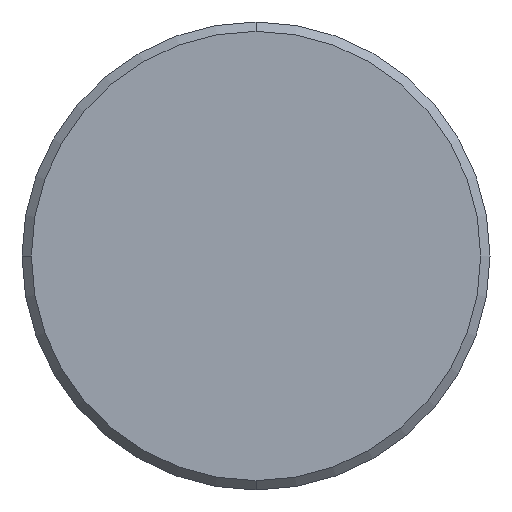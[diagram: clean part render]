
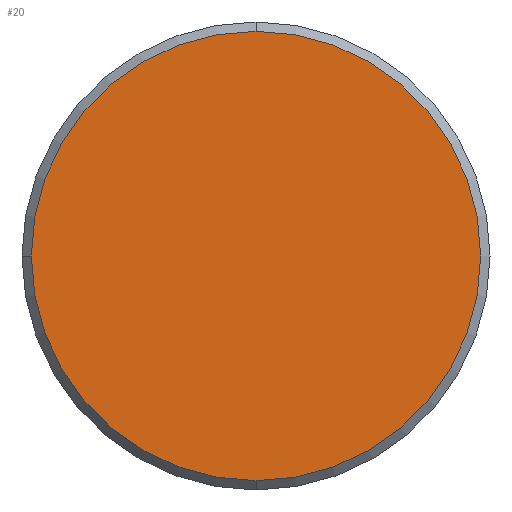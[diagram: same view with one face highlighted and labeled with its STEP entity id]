
A CAD part, left-side view. The second image highlights one B-rep face of the part: STEP entity #20.
In plain terms, the highlighted planar face has unit normal (-1, 0, 0).
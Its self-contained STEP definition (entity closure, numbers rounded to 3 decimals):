
#20 = ADVANCED_FACE ( 'NONE', ( #1441 ), #1414, .F. ) ;
#182 = ORIENTED_EDGE ( 'NONE', *, *, #800, .F. ) ;
#352 = VERTEX_POINT ( 'NONE', #851 ) ;
#403 = AXIS2_PLACEMENT_3D ( 'NONE', #1042, #1043, #1044 ) ;
#422 = CIRCLE ( 'NONE', #403, 12. ) ;
#489 = CIRCLE ( 'NONE', #490, 12. ) ;
#490 = AXIS2_PLACEMENT_3D ( 'NONE', #572, #573, #574 ) ;
#510 = CIRCLE ( 'NONE', #513, 12. ) ;
#513 = AXIS2_PLACEMENT_3D ( 'NONE', #589, #590, #591 ) ;
#572 = CARTESIAN_POINT ( 'NONE',  ( 0., 0., 0. ) ) ;
#573 = DIRECTION ( 'NONE',  ( 1., 0., 0. ) ) ;
#574 = DIRECTION ( 'NONE',  ( 0., 1., 0. ) ) ;
#589 = CARTESIAN_POINT ( 'NONE',  ( 0., 0., 0. ) ) ;
#590 = DIRECTION ( 'NONE',  ( 1., 0., 0. ) ) ;
#591 = DIRECTION ( 'NONE',  ( 0., 1., 0. ) ) ;
#723 = EDGE_CURVE ( 'NONE', #1327, #352, #489, .T. ) ;
#729 = EDGE_CURVE ( 'NONE', #1326, #1327, #510, .T. ) ;
#752 = AXIS2_PLACEMENT_3D ( 'NONE', #1410, #1496, #1456 ) ;
#800 = EDGE_CURVE ( 'NONE', #352, #1326, #422, .T. ) ;
#851 = CARTESIAN_POINT ( 'NONE',  ( 0., 0., 12. ) ) ;
#1042 = CARTESIAN_POINT ( 'NONE',  ( 0., 0., 0. ) ) ;
#1043 = DIRECTION ( 'NONE',  ( 1., 0., 0. ) ) ;
#1044 = DIRECTION ( 'NONE',  ( 0., 0., -1. ) ) ;
#1155 = CARTESIAN_POINT ( 'NONE',  ( 0., 0., -12. ) ) ;
#1156 = CARTESIAN_POINT ( 'NONE',  ( 0., 12., 0. ) ) ;
#1185 = ORIENTED_EDGE ( 'NONE', *, *, #723, .F. ) ;
#1206 = EDGE_LOOP ( 'NONE', ( #182, #1185, #1372 ) ) ;
#1326 = VERTEX_POINT ( 'NONE', #1155 ) ;
#1327 = VERTEX_POINT ( 'NONE', #1156 ) ;
#1372 = ORIENTED_EDGE ( 'NONE', *, *, #729, .F. ) ;
#1410 = CARTESIAN_POINT ( 'NONE',  ( 0., -12.65, 12.65 ) ) ;
#1414 = PLANE ( 'NONE',  #752 ) ;
#1441 = FACE_OUTER_BOUND ( 'NONE', #1206, .T. ) ;
#1456 = DIRECTION ( 'NONE',  ( 0., 0., -1. ) ) ;
#1496 = DIRECTION ( 'NONE',  ( 1., 0., 0. ) ) ;
